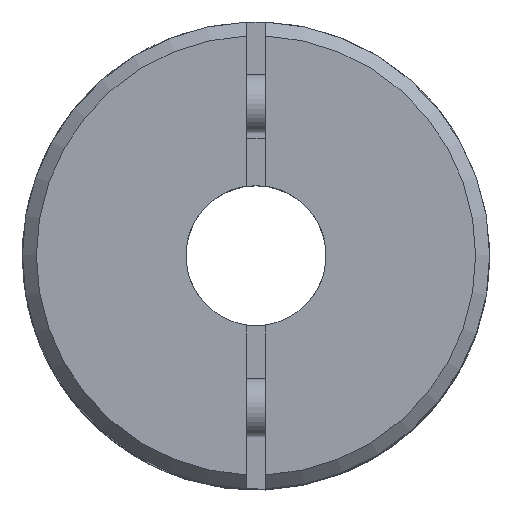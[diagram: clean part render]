
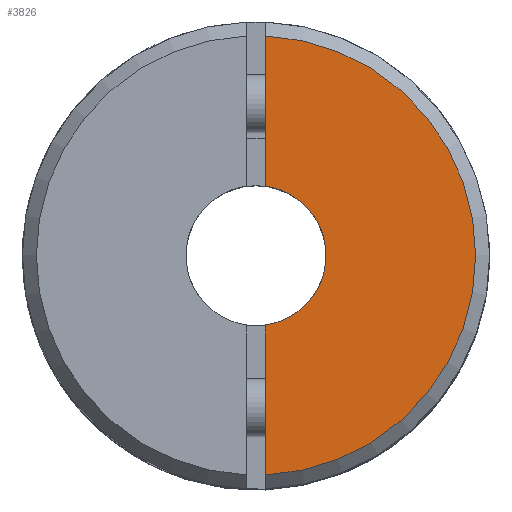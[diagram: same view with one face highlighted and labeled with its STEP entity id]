
A CAD part, top view. The second image highlights one B-rep face of the part: STEP entity #3826.
In plain terms, the highlighted planar face has unit normal (0, 0, 1).
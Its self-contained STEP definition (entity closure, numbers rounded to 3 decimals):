
#29 = EDGE_CURVE ( 'NONE', #357, #206, #1914, .T. ) ;
#63 = DIRECTION ( 'NONE',  ( 0., 0., 1. ) ) ;
#88 = CARTESIAN_POINT ( 'NONE',  ( 0., 3., 13. ) ) ;
#112 = EDGE_CURVE ( 'NONE', #3005, #963, #2005, .T. ) ;
#143 = EDGE_CURVE ( 'NONE', #963, #206, #2008, .T. ) ;
#206 = VERTEX_POINT ( 'NONE', #3692 ) ;
#279 = AXIS2_PLACEMENT_3D ( 'NONE', #88, #4302, #2240 ) ;
#357 = VERTEX_POINT ( 'NONE', #4383 ) ;
#552 = FACE_OUTER_BOUND ( 'NONE', #3463, .T. ) ;
#588 = DIRECTION ( 'NONE',  ( 0., -1., 0. ) ) ;
#594 = CARTESIAN_POINT ( 'NONE',  ( 0.4, -9.391, 13. ) ) ;
#894 = CARTESIAN_POINT ( 'NONE',  ( 0., 0., 13. ) ) ;
#963 = VERTEX_POINT ( 'NONE', #4362 ) ;
#985 = AXIS2_PLACEMENT_3D ( 'NONE', #894, #1945, #2283 ) ;
#1327 = ORIENTED_EDGE ( 'NONE', *, *, #29, .F. ) ;
#1383 = DIRECTION ( 'NONE',  ( 0., -1., 0. ) ) ;
#1639 = ORIENTED_EDGE ( 'NONE', *, *, #143, .T. ) ;
#1656 = CARTESIAN_POINT ( 'NONE',  ( 0.4, 15., 13. ) ) ;
#1914 = CIRCLE ( 'NONE', #985, 3. ) ;
#1945 = DIRECTION ( 'NONE',  ( 0., 0., 1. ) ) ;
#2005 = CIRCLE ( 'NONE', #3029, 9.4 ) ;
#2008 = LINE ( 'NONE', #1656, #3365 ) ;
#2240 = DIRECTION ( 'NONE',  ( 0., 1., 0. ) ) ;
#2283 = DIRECTION ( 'NONE',  ( 0., -1., 0. ) ) ;
#2533 = DIRECTION ( 'NONE',  ( 0., 1., 0. ) ) ;
#2710 = EDGE_CURVE ( 'NONE', #357, #3005, #4169, .T. ) ;
#2862 = ORIENTED_EDGE ( 'NONE', *, *, #112, .T. ) ;
#3005 = VERTEX_POINT ( 'NONE', #594 ) ;
#3029 = AXIS2_PLACEMENT_3D ( 'NONE', #3937, #63, #2533 ) ;
#3365 = VECTOR ( 'NONE', #588, 1000. ) ;
#3463 = EDGE_LOOP ( 'NONE', ( #3733, #2862, #1639, #1327 ) ) ;
#3529 = VECTOR ( 'NONE', #1383, 1000. ) ;
#3692 = CARTESIAN_POINT ( 'NONE',  ( 0.4, 2.973, 13. ) ) ;
#3733 = ORIENTED_EDGE ( 'NONE', *, *, #2710, .T. ) ;
#3826 = ADVANCED_FACE ( 'NONE', ( #552 ), #4255, .F. ) ;
#3840 = CARTESIAN_POINT ( 'NONE',  ( 0.4, 15., 13. ) ) ;
#3937 = CARTESIAN_POINT ( 'NONE',  ( 0., 0., 13. ) ) ;
#4169 = LINE ( 'NONE', #3840, #3529 ) ;
#4255 = PLANE ( 'NONE',  #279 ) ;
#4302 = DIRECTION ( 'NONE',  ( 0., 0., -1. ) ) ;
#4362 = CARTESIAN_POINT ( 'NONE',  ( 0.4, 9.391, 13. ) ) ;
#4383 = CARTESIAN_POINT ( 'NONE',  ( 0.4, -2.973, 13. ) ) ;
